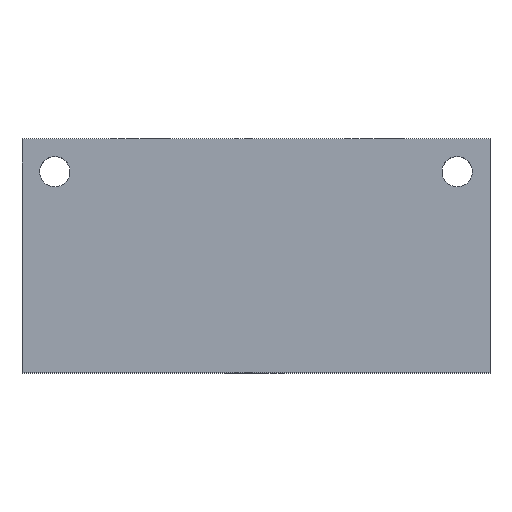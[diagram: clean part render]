
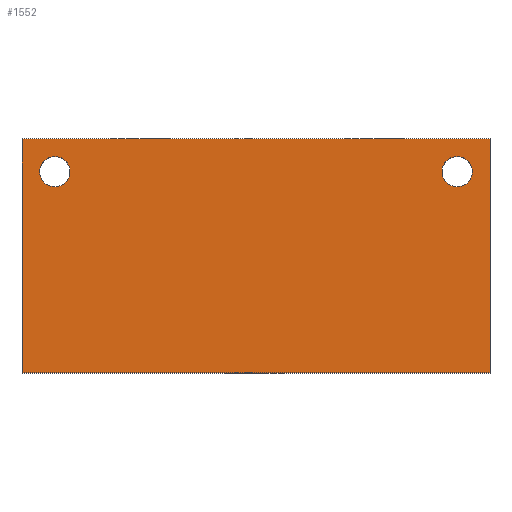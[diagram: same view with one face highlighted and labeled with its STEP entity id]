
A CAD part, top view. The second image highlights one B-rep face of the part: STEP entity #1552.
In plain terms, the highlighted planar face has unit normal (0, 0, 1).
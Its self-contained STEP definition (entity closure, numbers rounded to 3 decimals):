
#15 = PLANE ( 'NONE',  #1245 ) ;
#46 = ORIENTED_EDGE ( 'NONE', *, *, #1264, .T. ) ;
#47 = DIRECTION ( 'NONE',  ( 0., 0., 1. ) ) ;
#68 = DIRECTION ( 'NONE',  ( 1., 0., 0. ) ) ;
#87 = EDGE_LOOP ( 'NONE', ( #1450, #378 ) ) ;
#100 = CARTESIAN_POINT ( 'NONE',  ( -43., 18., 12.5 ) ) ;
#109 = EDGE_CURVE ( 'NONE', #1714, #1649, #295, .T. ) ;
#115 = VERTEX_POINT ( 'NONE', #868 ) ;
#126 = EDGE_CURVE ( 'NONE', #1012, #540, #419, .T. ) ;
#144 = AXIS2_PLACEMENT_3D ( 'NONE', #100, #208, #1691 ) ;
#156 = DIRECTION ( 'NONE',  ( 0., -1., 0. ) ) ;
#200 = CARTESIAN_POINT ( 'NONE',  ( -50., -25., 12.5 ) ) ;
#208 = DIRECTION ( 'NONE',  ( 0., 0., 1. ) ) ;
#271 = CARTESIAN_POINT ( 'NONE',  ( -50., 25., 12.5 ) ) ;
#273 = CARTESIAN_POINT ( 'NONE',  ( -50., -25., 12.5 ) ) ;
#283 = DIRECTION ( 'NONE',  ( -1., 0., 0. ) ) ;
#291 = LINE ( 'NONE', #918, #471 ) ;
#295 = CIRCLE ( 'NONE', #515, 3.25 ) ;
#305 = ORIENTED_EDGE ( 'NONE', *, *, #499, .F. ) ;
#338 = DIRECTION ( 'NONE',  ( 0., 1., 0. ) ) ;
#378 = ORIENTED_EDGE ( 'NONE', *, *, #109, .F. ) ;
#383 = LINE ( 'NONE', #271, #1621 ) ;
#419 = LINE ( 'NONE', #1473, #571 ) ;
#457 = ORIENTED_EDGE ( 'NONE', *, *, #1693, .F. ) ;
#471 = VECTOR ( 'NONE', #156, 1000. ) ;
#484 = VERTEX_POINT ( 'NONE', #273 ) ;
#499 = EDGE_CURVE ( 'NONE', #535, #916, #1438, .T. ) ;
#515 = AXIS2_PLACEMENT_3D ( 'NONE', #1271, #852, #68 ) ;
#521 = FACE_BOUND ( 'NONE', #87, .T. ) ;
#524 = AXIS2_PLACEMENT_3D ( 'NONE', #1094, #47, #1486 ) ;
#535 = VERTEX_POINT ( 'NONE', #950 ) ;
#540 = VERTEX_POINT ( 'NONE', #1453 ) ;
#571 = VECTOR ( 'NONE', #338, 1000. ) ;
#575 = ORIENTED_EDGE ( 'NONE', *, *, #1626, .T. ) ;
#615 = DIRECTION ( 'NONE',  ( -1., 0., 0. ) ) ;
#642 = CARTESIAN_POINT ( 'NONE',  ( -46.25, 18., 12.5 ) ) ;
#659 = FACE_BOUND ( 'NONE', #1709, .T. ) ;
#669 = DIRECTION ( 'NONE',  ( 0., 0., 1. ) ) ;
#749 = CIRCLE ( 'NONE', #524, 3.25 ) ;
#797 = DIRECTION ( 'NONE',  ( 0., 0., -1. ) ) ;
#852 = DIRECTION ( 'NONE',  ( 0., 0., 1. ) ) ;
#868 = CARTESIAN_POINT ( 'NONE',  ( -50., 25., 12.5 ) ) ;
#916 = VERTEX_POINT ( 'NONE', #1259 ) ;
#918 = CARTESIAN_POINT ( 'NONE',  ( -50., -25., 12.5 ) ) ;
#950 = CARTESIAN_POINT ( 'NONE',  ( 46.25, 18., 12.5 ) ) ;
#984 = CARTESIAN_POINT ( 'NONE',  ( 50., -25., 12.5 ) ) ;
#995 = EDGE_CURVE ( 'NONE', #484, #1012, #997, .T. ) ;
#997 = LINE ( 'NONE', #200, #1562 ) ;
#999 = EDGE_CURVE ( 'NONE', #1649, #1714, #1586, .T. ) ;
#1012 = VERTEX_POINT ( 'NONE', #984 ) ;
#1065 = DIRECTION ( 'NONE',  ( -1., 0., 0. ) ) ;
#1091 = ORIENTED_EDGE ( 'NONE', *, *, #995, .T. ) ;
#1094 = CARTESIAN_POINT ( 'NONE',  ( 43., 18., 12.5 ) ) ;
#1176 = AXIS2_PLACEMENT_3D ( 'NONE', #1204, #669, #1065 ) ;
#1201 = CARTESIAN_POINT ( 'NONE',  ( -39.75, 18., 12.5 ) ) ;
#1204 = CARTESIAN_POINT ( 'NONE',  ( 43., 18., 12.5 ) ) ;
#1245 = AXIS2_PLACEMENT_3D ( 'NONE', #1452, #797, #283 ) ;
#1259 = CARTESIAN_POINT ( 'NONE',  ( 39.75, 18., 12.5 ) ) ;
#1264 = EDGE_CURVE ( 'NONE', #115, #484, #291, .T. ) ;
#1271 = CARTESIAN_POINT ( 'NONE',  ( -43., 18., 12.5 ) ) ;
#1438 = CIRCLE ( 'NONE', #1176, 3.25 ) ;
#1450 = ORIENTED_EDGE ( 'NONE', *, *, #999, .F. ) ;
#1452 = CARTESIAN_POINT ( 'NONE',  ( 0., 0., 12.5 ) ) ;
#1453 = CARTESIAN_POINT ( 'NONE',  ( 50., 25., 12.5 ) ) ;
#1471 = FACE_OUTER_BOUND ( 'NONE', #1532, .T. ) ;
#1473 = CARTESIAN_POINT ( 'NONE',  ( 50., -25., 12.5 ) ) ;
#1486 = DIRECTION ( 'NONE',  ( -1., 0., 0. ) ) ;
#1532 = EDGE_LOOP ( 'NONE', ( #1599, #575, #46, #1091 ) ) ;
#1552 = ADVANCED_FACE ( 'NONE', ( #1471, #521, #659 ), #15, .F. ) ;
#1562 = VECTOR ( 'NONE', #1684, 1000. ) ;
#1586 = CIRCLE ( 'NONE', #144, 3.25 ) ;
#1599 = ORIENTED_EDGE ( 'NONE', *, *, #126, .T. ) ;
#1621 = VECTOR ( 'NONE', #615, 1000. ) ;
#1626 = EDGE_CURVE ( 'NONE', #540, #115, #383, .T. ) ;
#1649 = VERTEX_POINT ( 'NONE', #642 ) ;
#1684 = DIRECTION ( 'NONE',  ( 1., 0., 0. ) ) ;
#1691 = DIRECTION ( 'NONE',  ( 1., 0., 0. ) ) ;
#1693 = EDGE_CURVE ( 'NONE', #916, #535, #749, .T. ) ;
#1709 = EDGE_LOOP ( 'NONE', ( #457, #305 ) ) ;
#1714 = VERTEX_POINT ( 'NONE', #1201 ) ;
